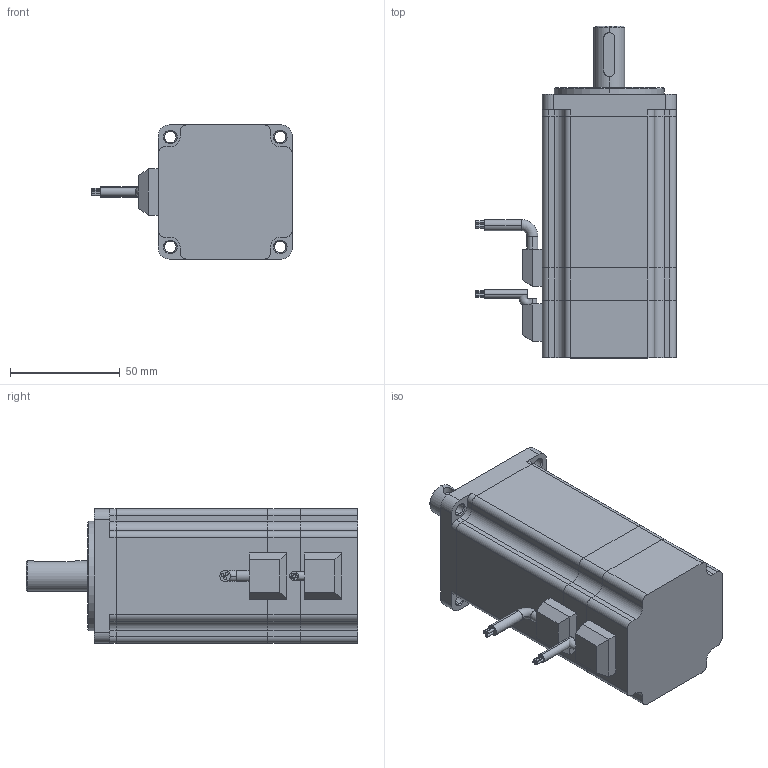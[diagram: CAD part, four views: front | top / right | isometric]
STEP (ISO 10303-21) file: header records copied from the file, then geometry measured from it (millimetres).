
FILE_DESCRIPTION (( 'STEP AP203' ), '1' );
FILE_NAME ('JK60BLS03-X008.STEP', '2025-02-27T06:51:02', ( '' ), ( '' ), 'SwSTEP 2.0', 'SolidWorks 2020', '' );
FILE_SCHEMA (( 'CONFIG_CONTROL_DESIGN' ));
Length unit declared in the file: millimetre
Products named in the file (1): JK60BLS03-X008
Bounding box: 91.29 x 151 x 61 mm (x, y, z)
Volume: 418024.8 mm3; surface area: 60399.5 mm2
Topology: 7 solids, 7 shells, 207 faces, 523 edges, 339 vertices
Faces by surface type: plane 94, cylinder 90, cone 20, torus 3
Entity records: 6378 total; most frequent: DIRECTION 1139, CARTESIAN_POINT 1132, ORIENTED_EDGE 1042, EDGE_CURVE 521, AXIS2_PLACEMENT_3D 414, VERTEX_POINT 339, LINE 311, VECTOR 311
